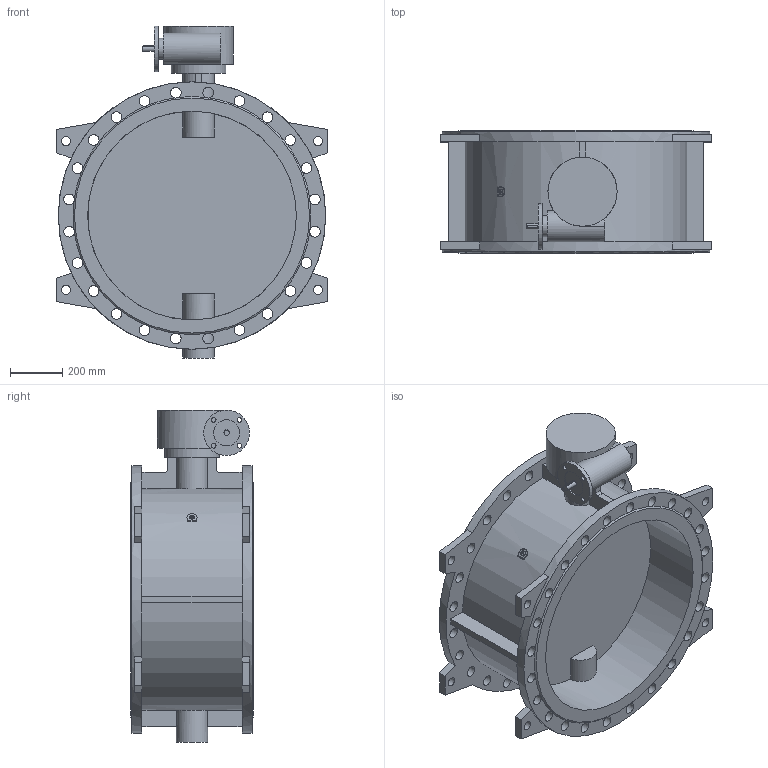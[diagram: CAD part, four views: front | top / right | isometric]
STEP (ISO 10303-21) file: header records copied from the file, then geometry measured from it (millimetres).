
FILE_DESCRIPTION(('STEP AP203'), '1');
FILE_NAME('Çàòâîð 023F.Z DN800 PN16_ð-ð_ôë', '', ('UNSPECIFIED'), ('UNSPECIFIED'), 'ASCON STEP Converter 1.6', 'ASCON Math Kernel', '');
FILE_SCHEMA(('CONFIG_CONTROL_DESIGN'));
Length unit declared in the file: millimetre
Bounding box: 1036 x 470 x 1272.5 mm (x, y, z)
Volume: 100433489 mm3; surface area: 5387502 mm2
Topology: 1 solids, 1 shells, 195 faces, 652 edges, 434 vertices
Faces by surface type: cylinder 98, plane 95, cone 2
Full cylindrical faces by diameter (mm): 18 x4, 18.5 x4, 20 x1, 23 x4, 35 x8, 41 x48, 80 x1, 100 x1, 120 x2, 175 x1, 210 x1, 265 x1, 800 x2, 1025 x2
Entity records: 12040 total; most frequent: CARTESIAN_POINT 4725, DIRECTION 1198, ORIENTED_EDGE 1134, EDGE_CURVE 567, AXIS2_PLACEMENT_3D 503, VERTEX_POINT 433, EDGE_LOOP 372, CIRCLE 308
